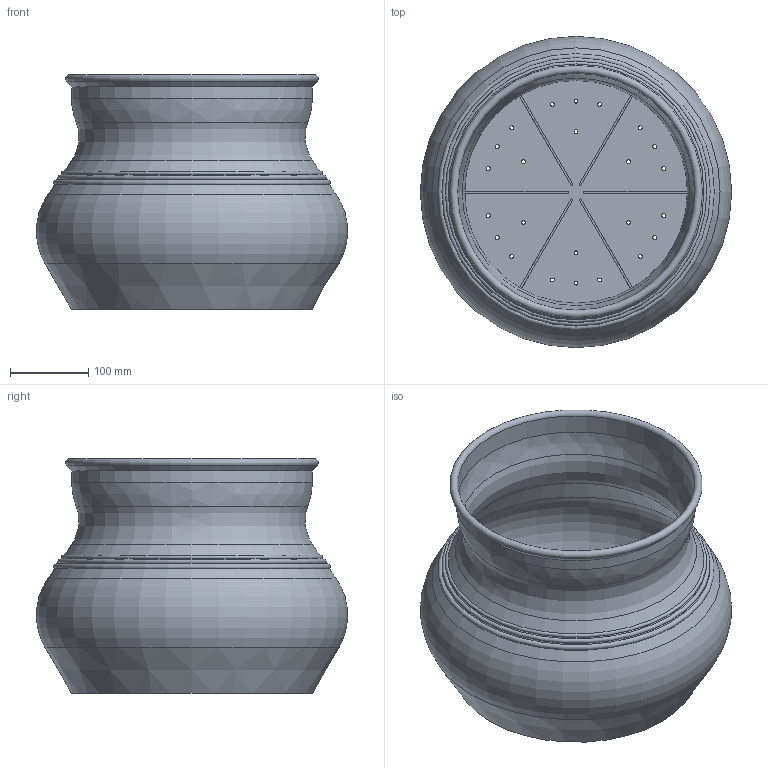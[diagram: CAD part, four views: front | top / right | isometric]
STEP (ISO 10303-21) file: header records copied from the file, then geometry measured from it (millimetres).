
FILE_DESCRIPTION(/* description */ (''),/* implementation_level */ '2;1');
FILE_NAME(/* name */ 'LR2406-S25-H300-D400_step.step',/* time_stamp */ '2024-02-01T11:00:34+01:00',/* author */ (''),/* organization */ (''),/* preprocessor_version */ 'ST-DEVELOPER v20',/* originating_system */ 'Autodesk Translation Framework v12.20.1.177',/* authorisation */ '');
FILE_SCHEMA (('AUTOMOTIVE_DESIGN { 1 0 10303 214 3 1 1 }'));
Length unit declared in the file: millimetre
Products named in the file (1): LR2406-S25-H300-D400
Bounding box: 397.89 x 397.89 x 300 mm (x, y, z)
Volume: 1087790.5 mm3; surface area: 862953.4 mm2
Topology: 1 solids, 1 shells, 70 faces, 185 edges, 117 vertices
Faces by surface type: cylinder 32, plane 20, cone 8, torus 8, bspline 2
Full cylindrical faces by diameter (mm): 5 x24, 303 x1, 308 x1
Entity records: 2380 total; most frequent: DIRECTION 426, CARTESIAN_POINT 425, ORIENTED_EDGE 370, EDGE_CURVE 185, AXIS2_PLACEMENT_3D 172, EDGE_LOOP 118, VERTEX_POINT 117, CIRCLE 103
